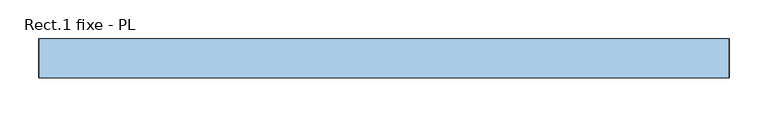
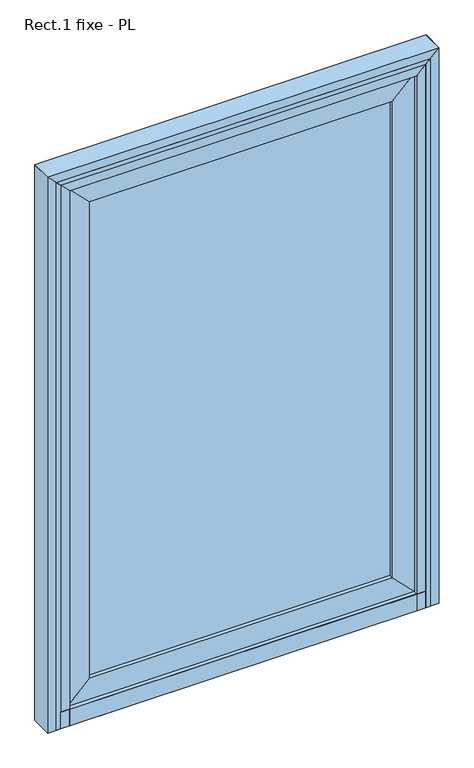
"""IFC4 building model written with IfcOpenShell, lengths in millimetres: window geometry, Rect.1 fixe - PL : 89*117."""

from ifc_helpers import new_model, si_unit, frame, origin, origin_with_axes, place, context, project, spatial, polyline, outline, extrude, source, transform, mapped, element, save


def rect_1_fixe_pl_11df9c16(model_context):
    return source(origin(), model_context, "Body", "SweptSolid", [
        extrude(outline(polyline([(344.15, -10.0), (344.15, -30.0), (-344.15, -30.0), (-344.15, -10.0), (344.15, -10.0)])), frame((0.0, 0.0, 90.0), z_axis=(0.0, 0.0, 1.0), x_axis=(1.0, 0.0, 0.0)), (0.0, 0.0, 1.0), 1142.5),
        extrude(outline(polyline([(40.0, -394.15), (90.0, -344.15), (1232.5, -344.15), (1282.5, -394.15), (40.0, -394.15)])), frame((0.0, -40.0, 0.0), z_axis=(0.0, 1.0, 0.0), x_axis=(0.0, 0.0, 1.0)), (0.0, 0.0, 1.0), 40.0),
        extrude(outline(polyline([(90.0, 344.15), (40.0, 394.15), (1282.5, 394.15), (1232.5, 344.15), (90.0, 344.15)])), frame((0.0, -40.0, 0.0), z_axis=(0.0, 1.0, 0.0), x_axis=(0.0, 0.0, 1.0)), (0.0, 0.0, 1.0), 40.0),
        extrude(outline(polyline([(1282.5, 394.15), (1282.5, -394.15), (1232.5, -344.15), (1232.5, 344.15), (1282.5, 394.15)])), frame((0.0, -40.0, 0.0), z_axis=(0.0, 1.0, 0.0), x_axis=(0.0, 0.0, 1.0)), (0.0, 0.0, 1.0), 40.0),
        extrude(outline(polyline([(40.0, 394.15), (90.0, 344.15), (90.0, -344.15), (40.0, -394.15), (40.0, 394.15)])), frame((0.0, -40.0, 0.0), z_axis=(0.0, 1.0, 0.0), x_axis=(0.0, 0.0, 1.0)), (0.0, 0.0, 1.0), 40.0),
        extrude(outline(polyline([(394.15, -50.0), (-394.15, -50.0), (-394.15, 0.0), (394.15, 0.0), (394.15, -50.0)])), origin_with_axes(), (0.0, 0.0, 1.0), 40.0),
        extrude(outline(polyline([(-20.0, 30.0), (-20.0, 0.0), (-50.0, 0.0), (-50.0, 40.0), (-20.0, 30.0)])), frame((-414.15, 0.0, 0.0), z_axis=(1.0, 0.0, 0.0), x_axis=(0.0, 1.0, 0.0)), (0.0, 0.0, 1.0), 828.3),
        extrude(outline(polyline([(1312.5, -424.15), (0.0, -424.15), (0.0, -414.15), (1302.5, -414.15), (1312.5, -424.15)])), frame((0.0, -50.0, 0.0), z_axis=(0.0, 1.0, 0.0), x_axis=(0.0, 0.0, 1.0)), (0.0, 0.0, 1.0), 40.0),
        extrude(outline(polyline([(1312.5, 424.15), (1302.5, 414.15), (0.0, 414.15), (0.0, 424.15), (1312.5, 424.15)])), frame((0.0, -50.0, 0.0), z_axis=(0.0, 1.0, 0.0), x_axis=(0.0, 0.0, 1.0)), (0.0, 0.0, 1.0), 40.0),
        extrude(outline(polyline([(0.0, -444.15), (0.0, -394.15), (1282.5, -394.15), (1332.5, -444.15), (0.0, -444.15)])), frame((0.0, -50.0, 0.0), z_axis=(0.0, 1.0, 0.0), x_axis=(0.0, 0.0, 1.0)), (0.0, 0.0, 1.0), 50.0),
        extrude(outline(polyline([(0.0, 444.15), (1332.5, 444.15), (1282.5, 394.15), (0.0, 394.15), (0.0, 444.15)])), frame((0.0, -50.0, 0.0), z_axis=(0.0, 1.0, 0.0), x_axis=(0.0, 0.0, 1.0)), (0.0, 0.0, 1.0), 50.0),
        extrude(outline(polyline([(1312.5, -424.15), (1302.5, -414.15), (1302.5, 414.15), (1312.5, 424.15), (1312.5, -424.15)])), frame((0.0, -50.0, 0.0), z_axis=(0.0, 1.0, 0.0), x_axis=(0.0, 0.0, 1.0)), (0.0, 0.0, 1.0), 40.0),
        extrude(outline(polyline([(1332.5, 444.15), (1332.5, -444.15), (1282.5, -394.15), (1282.5, 394.15), (1332.5, 444.15)])), frame((0.0, -50.0, 0.0), z_axis=(0.0, 1.0, 0.0), x_axis=(0.0, 0.0, 1.0)), (0.0, 0.0, 1.0), 50.0),
    ])


if __name__ == "__main__":
    model = new_model("IFC4")
    model_context = context("Model", 3, world=origin())
    ifc_project = project(units=[si_unit("LENGTHUNIT", "METRE", prefix="MILLI")], contexts=[model_context])
    site = spatial("IfcSite", under=ifc_project)
    building = spatial("IfcBuilding", under=site)
    placement = place(None, origin())
    rect_1_fixe_pl_shape = rect_1_fixe_pl_11df9c16(model_context)
    element("IfcWindow", 1, ObjectType="Rect.1 fixe - PL : 89*117", at=placement, inside=building, context=model_context, shape_type="MappedRepresentation", body=[
        mapped(rect_1_fixe_pl_shape, transform((0.0, 0.0, 0.0), x_axis=(1.0, 0.0, 0.0), y_axis=(0.0, 1.0, 0.0), z_axis=(0.0, 0.0, 1.0))),
    ])
    save(model, "model.ifc")
